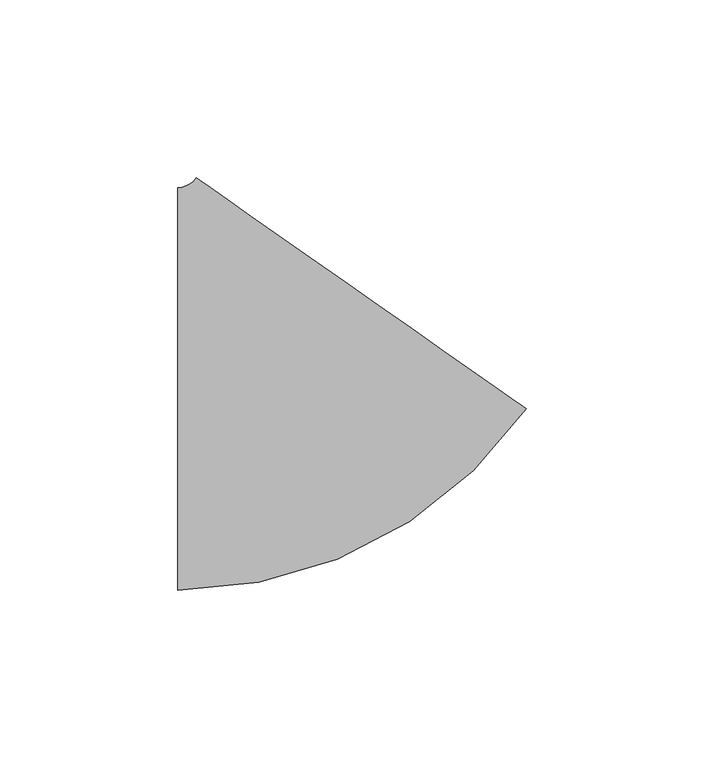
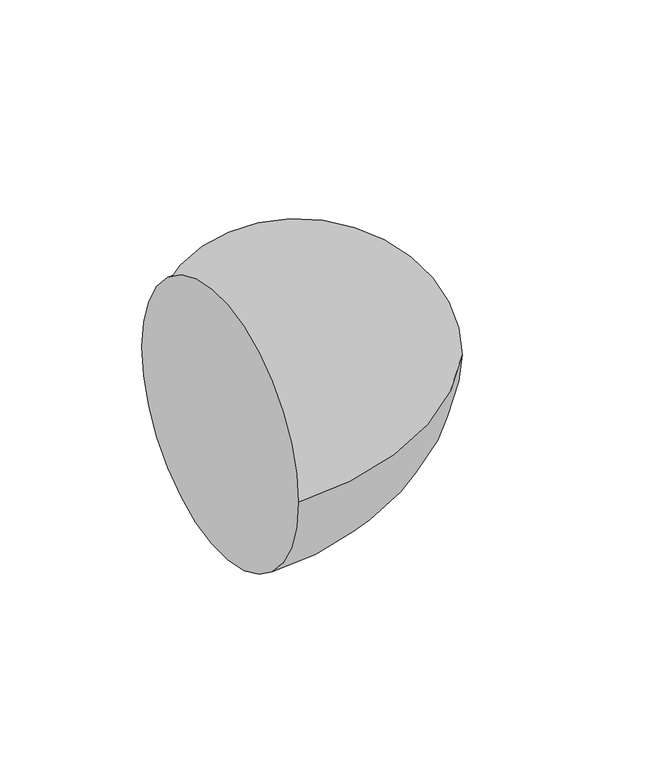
"""IFC4 building model written with IfcOpenShell, lengths in millimetres: pipe fitting geometry, M_Codo - Genérico : Estándar."""

from ifc_helpers import new_model, si_unit, point, frame, origin, place, context, project, spatial, circle_curve, ellipse_curve, trimmed, source, transform, mapped, element, save
from ifc_brep_helpers import plane_surface, revolved_surface, advanced_brep


def pipe_fitting_3f932390(model_context):
    return source(origin(), model_context, "Body", "AdvancedBrep", [
        advanced_brep(
        [(-32.7631887, -56.5875, 0.0), (-32.7631887, 56.5875, 0.0), (65.1459593, -5.6192236, 0.0), (-27.5615733, 59.2952896, 0.0)],
        [
            (0, 1, circle_curve(frame((-32.7631887, 0.0, 0.0), z_axis=(-1.0, 0.0, 0.0), x_axis=(0.0, 1.0, 0.0)), 56.5875)),
            (1, 0, circle_curve(frame((-32.7631887, 0.0, 0.0), z_axis=(-1.0, 0.0, 0.0), x_axis=(0.0, 1.0, 0.0)), 56.5875)),
            (2, 3, circle_curve(frame((18.792193, 26.838033, 0.0), z_axis=(0.5735764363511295, 0.8191520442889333, 0.0), x_axis=(-0.8191520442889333, 0.5735764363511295, 0.0)), 56.5875)),
            (3, 2, circle_curve(frame((18.792193, 26.838033, 0.0), z_axis=(0.5735764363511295, 0.8191520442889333, 0.0), x_axis=(-0.8191520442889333, 0.5735764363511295, 0.0)), 56.5875)),
            (3, 1, circle_curve(frame((-32.7631887, 62.9375, 0.0), z_axis=(0.0, 0.0, -1.0), x_axis=(0.0, -1.0, 0.0)), 6.35)),
            (0, 2, circle_curve(frame((-32.7631887, 62.9375, 0.0), z_axis=(0.0, 0.0, 1.0), x_axis=(0.0, -1.0, 0.0)), 119.525)),
        ],
        [
            plane_surface(frame((-32.7631887, 0.0, 0.0), z_axis=(-1.0, 0.0, 0.0), x_axis=(0.0, 0.0, 1.0))),
            plane_surface(frame((18.792193, 26.838033, 0.0), z_axis=(0.5735764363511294, 0.8191520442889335, 0.0), x_axis=(0.0, 0.0, 1.0))),
            revolved_surface(trimmed(ellipse_curve(frame((-32.7631887, 0.0, 0.0), z_axis=(-1.0, 0.0, 0.0), x_axis=(0.0, 1.0, 0.0)), 56.5875, 56.5875), [point((-32.7631887, -56.5875, 0.0))], [point((-32.7631887, 56.5875, 0.0))], True, "CARTESIAN"), (-32.7631887, 62.9375, 0.0), (0.0, 0.0, 1.0)),
            revolved_surface(trimmed(ellipse_curve(frame((-32.7631887, 0.0, 0.0), z_axis=(-1.0, 0.0, 0.0), x_axis=(0.0, 1.0, 0.0)), 56.5875, 56.5875), [point((-32.7631887, 56.5875, 0.0))], [point((-32.7631887, -56.5875, 0.0))], True, "CARTESIAN"), (-32.7631887, 62.9375, 0.0), (0.0, 0.0, 1.0)),
        ],
        [
            (0, [[1, 2]]),
            (1, [[3, 4]]),
            (2, [[5, -1, 6, -4]]),
            (3, [[-6, -2, -5, -3]]),
        ],
    ),
    ])


if __name__ == "__main__":
    model = new_model("IFC4")
    model_context = context("Model", 3, world=origin())
    ifc_project = project(units=[si_unit("LENGTHUNIT", "METRE", prefix="MILLI")], contexts=[model_context])
    site = spatial("IfcSite", under=ifc_project)
    building = spatial("IfcBuilding", under=site)
    placement = place(None, origin())
    pipe_fitting_shape = pipe_fitting_3f932390(model_context)
    element("IfcPipeFitting", 1, ObjectType="M_Codo - Genérico : Estándar", at=placement, inside=building, context=model_context, shape_type="MappedRepresentation", body=[
        mapped(pipe_fitting_shape, transform((0.0, 0.0, 0.0), x_axis=(1.0, 0.0, 0.0), y_axis=(0.0, 1.0, 0.0), z_axis=(0.0, 0.0, 1.0))),
    ])
    save(model, "model.ifc")
